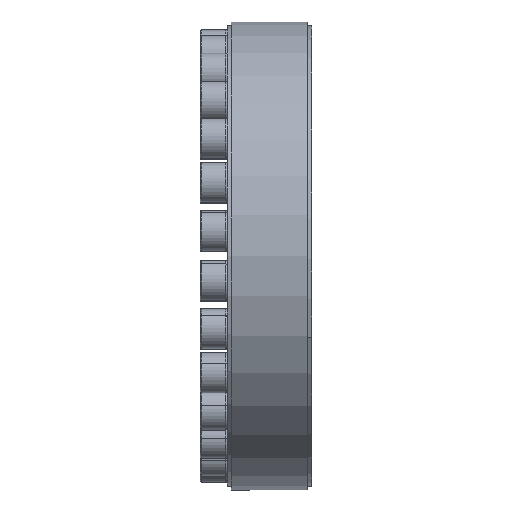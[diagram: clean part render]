
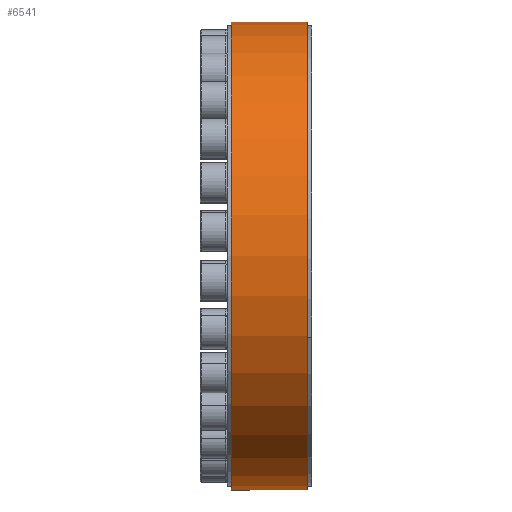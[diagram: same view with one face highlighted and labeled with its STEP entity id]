
A CAD part, top view. The second image highlights one B-rep face of the part: STEP entity #6541.
In plain terms, the highlighted cylindrical face has radius 104.989 mm (diameter 209.979 mm), a partial arc.
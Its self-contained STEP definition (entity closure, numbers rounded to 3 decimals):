
#72 = CARTESIAN_POINT ( 'NONE',  ( 17., -104.989, 0. ) ) ;
#421 = DIRECTION ( 'NONE',  ( 0., -1., 0. ) ) ;
#806 = DIRECTION ( 'NONE',  ( -1., 0., 0. ) ) ;
#827 = CARTESIAN_POINT ( 'NONE',  ( 17., 0., 0. ) ) ;
#1431 = AXIS2_PLACEMENT_3D ( 'NONE', #3499, #806, #11057 ) ;
#1990 = VERTEX_POINT ( 'NONE', #15311 ) ;
#2075 = CIRCLE ( 'NONE', #8577, 104.989 ) ;
#2390 = VECTOR ( 'NONE', #2766, 1000. ) ;
#2509 = LINE ( 'NONE', #17974, #15586 ) ;
#2766 = DIRECTION ( 'NONE',  ( -1., 0., 0. ) ) ;
#2858 = VERTEX_POINT ( 'NONE', #16340 ) ;
#3293 = EDGE_CURVE ( 'NONE', #8023, #1990, #9156, .T. ) ;
#3499 = CARTESIAN_POINT ( 'NONE',  ( -20., 0., 0. ) ) ;
#6489 = CARTESIAN_POINT ( 'NONE',  ( -17., -104.989, 0. ) ) ;
#6524 = DIRECTION ( 'NONE',  ( -1., 0., 0. ) ) ;
#6541 = ADVANCED_FACE ( 'NONE', ( #16712 ), #14653, .T. ) ;
#7086 = EDGE_CURVE ( 'NONE', #10218, #2858, #2075, .T. ) ;
#7886 = LINE ( 'NONE', #8404, #2390 ) ;
#8023 = VERTEX_POINT ( 'NONE', #6489 ) ;
#8404 = CARTESIAN_POINT ( 'NONE',  ( -20., 104.989, 0. ) ) ;
#8577 = AXIS2_PLACEMENT_3D ( 'NONE', #827, #6524, #12366 ) ;
#9101 = DIRECTION ( 'NONE',  ( -1., 0., 0. ) ) ;
#9156 = CIRCLE ( 'NONE', #12781, 104.989 ) ;
#10218 = VERTEX_POINT ( 'NONE', #72 ) ;
#10543 = ORIENTED_EDGE ( 'NONE', *, *, #3293, .F. ) ;
#10844 = EDGE_LOOP ( 'NONE', ( #13110, #11316, #10543, #16220 ) ) ;
#11057 = DIRECTION ( 'NONE',  ( 0., -1., 0. ) ) ;
#11316 = ORIENTED_EDGE ( 'NONE', *, *, #17273, .T. ) ;
#11643 = EDGE_CURVE ( 'NONE', #10218, #8023, #2509, .T. ) ;
#12145 = CARTESIAN_POINT ( 'NONE',  ( -17., 0., 0. ) ) ;
#12366 = DIRECTION ( 'NONE',  ( 0., -1., 0. ) ) ;
#12781 = AXIS2_PLACEMENT_3D ( 'NONE', #12145, #9101, #421 ) ;
#13110 = ORIENTED_EDGE ( 'NONE', *, *, #7086, .T. ) ;
#14653 = CYLINDRICAL_SURFACE ( 'NONE', #1431, 104.989 ) ;
#15311 = CARTESIAN_POINT ( 'NONE',  ( -17., 104.989, 0. ) ) ;
#15586 = VECTOR ( 'NONE', #18163, 1000. ) ;
#16220 = ORIENTED_EDGE ( 'NONE', *, *, #11643, .F. ) ;
#16340 = CARTESIAN_POINT ( 'NONE',  ( 17., 104.989, 0. ) ) ;
#16712 = FACE_OUTER_BOUND ( 'NONE', #10844, .T. ) ;
#17273 = EDGE_CURVE ( 'NONE', #2858, #1990, #7886, .T. ) ;
#17974 = CARTESIAN_POINT ( 'NONE',  ( -20., -104.989, 0. ) ) ;
#18163 = DIRECTION ( 'NONE',  ( -1., 0., 0. ) ) ;
